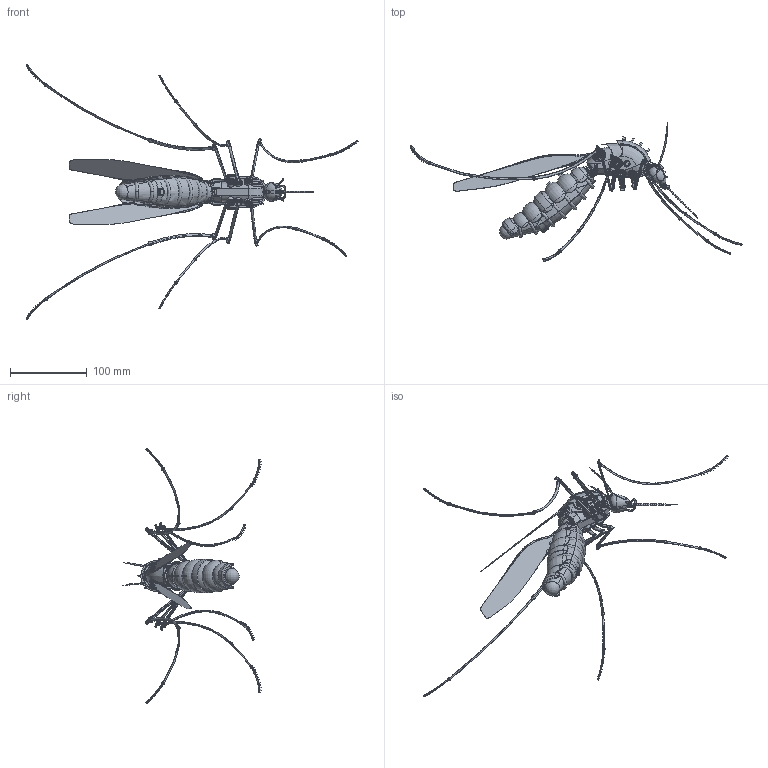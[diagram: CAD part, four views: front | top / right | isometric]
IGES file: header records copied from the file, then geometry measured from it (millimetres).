
Start section: Data from Parasolid IGES Translator 20.0.26, Copyright(c) 2006 Siemens P LM Software. All Rights Reserved.
Global section: file name: Mosquito Robot 2.igs; native system: By Siemens PLM Incorporated; preprocessor: XPlus GENERIC/IGES 20.0.26; author: Noname; organization: Noname; date: 20200720.102601; units: millimetre
Bounding box: 431.75 x 180.3 x 331.8 mm (x, y, z)
Surface area: 113045.7 mm2 (no closed solid volume)
Topology: 0 solids, 0 shells, 3049 faces, 16784 edges, 16406 vertices
Faces by surface type: extrusion 1922, revolution 1119, bspline 8
